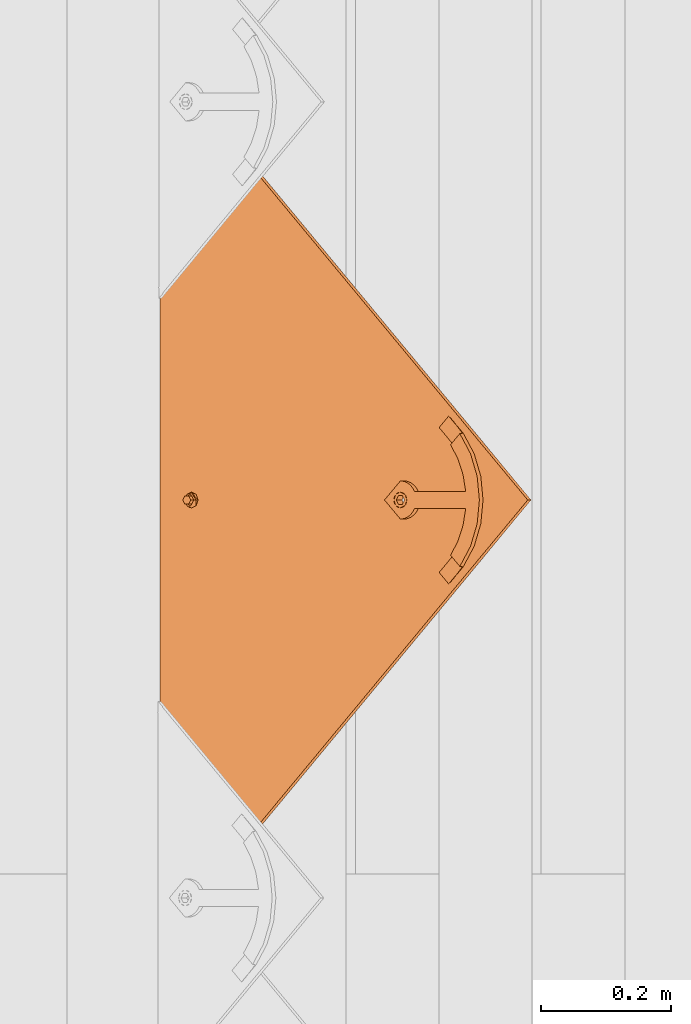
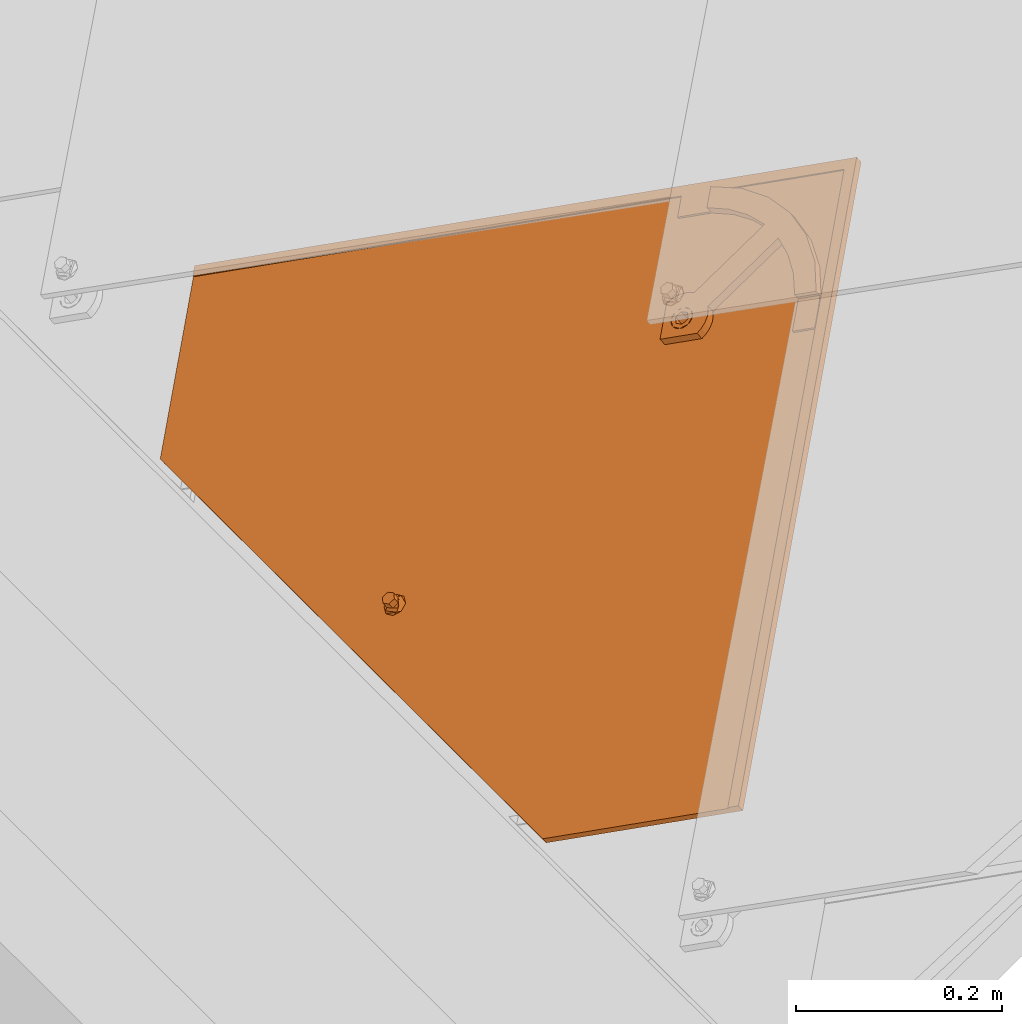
# One storey, part 54 of 151: 1 proxy.
"""IFC2X3 building model written with IfcOpenShell, lengths in millimetres."""

from ifc_helpers import new_model, entity, si_unit, converted_unit, derived_unit, direction, frame, origin, place, context, subcontext, project, spatial, faceted_brep, source, transform, mapped, material, material_list, type_object, type_shapes, element, save


model = new_model("IFC2X3")

# Units and contexts
model_context = context("Model", 3, precision=0.01, world=origin(), true_north=direction((6.12303176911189e-17, 1.0)))
body_context = subcontext(model_context, "Body", "Model", "MODEL_VIEW")
ifc_project = project(units=[si_unit("LENGTHUNIT", "METRE", prefix="MILLI"), si_unit("AREAUNIT", "SQUARE_METRE"), si_unit("VOLUMEUNIT", "CUBIC_METRE"), converted_unit("PLANEANGLEUNIT", "DEGREE", entity("IfcRatioMeasure", 0.0174532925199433), si_unit("PLANEANGLEUNIT", "RADIAN"), dimensions=[0, 0, 0, 0, 0, 0, 0]), si_unit("MASSUNIT", "GRAM", prefix="KILO"), derived_unit("MASSDENSITYUNIT", [(si_unit("MASSUNIT", "GRAM", prefix="KILO"), 1), (si_unit("LENGTHUNIT", "METRE"), -3)]), si_unit("TIMEUNIT", "SECOND"), si_unit("FREQUENCYUNIT", "HERTZ"), si_unit("THERMODYNAMICTEMPERATUREUNIT", "DEGREE_CELSIUS"), derived_unit("THERMALTRANSMITTANCEUNIT", [(si_unit("MASSUNIT", "GRAM", prefix="KILO"), 1), (si_unit("THERMODYNAMICTEMPERATUREUNIT", "KELVIN"), -1), (si_unit("TIMEUNIT", "SECOND"), -3)]), derived_unit("VOLUMETRICFLOWRATEUNIT", [(si_unit("LENGTHUNIT", "METRE"), 3), (si_unit("TIMEUNIT", "SECOND"), -1)]), si_unit("ELECTRICCURRENTUNIT", "AMPERE"), si_unit("ELECTRICVOLTAGEUNIT", "VOLT"), si_unit("POWERUNIT", "WATT"), si_unit("FORCEUNIT", "NEWTON", prefix="KILO"), si_unit("ILLUMINANCEUNIT", "LUX"), si_unit("LUMINOUSFLUXUNIT", "LUMEN"), si_unit("LUMINOUSINTENSITYUNIT", "CANDELA"), derived_unit("USERDEFINED", [(si_unit("MASSUNIT", "GRAM", prefix="KILO"), -1), (si_unit("LENGTHUNIT", "METRE"), -2), (si_unit("TIMEUNIT", "SECOND"), 3), (si_unit("LUMINOUSFLUXUNIT", "LUMEN"), 1)]), derived_unit("LINEARVELOCITYUNIT", [(si_unit("LENGTHUNIT", "METRE"), 1), (si_unit("TIMEUNIT", "SECOND"), -1)]), si_unit("PRESSUREUNIT", "PASCAL"), derived_unit("USERDEFINED", [(si_unit("LENGTHUNIT", "METRE"), -2), (si_unit("MASSUNIT", "GRAM", prefix="KILO"), 1), (si_unit("TIMEUNIT", "SECOND"), -2)])], contexts=[model_context])

# Site, building, storey
site_placement = place(None, origin())
site = spatial("IfcSite", under=ifc_project, at=site_placement, Name="Default", CompositionType="ELEMENT")
building_placement = place(site_placement, origin())
building = spatial("IfcBuilding", under=site, at=building_placement, CompositionType="ELEMENT")
storey_placement = place(building_placement, origin())
storey = spatial("IfcBuildingStorey", under=building, at=storey_placement, Name="Level 1", CompositionType="ELEMENT", Elevation=0.0)

# Proxy
ifc_material_1 = material(Name="Rubber - Sunstyle - Black")
ifc_material_2 = material(Name="Glass - Sunstyle - Tainted Black")
ifc_material_list_1 = material_list([ifc_material_1, ifc_material_2])
ifc_material_list_2 = material_list([ifc_material_1, ifc_material_2])
building_element_proxy_type = type_object("IfcBuildingElementProxyType", Name="Shingle Bottom - Black", PredefinedType="NOTDEFINED", material=ifc_material_list_2)
shared_shape = source(origin(), body_context, "Body", "Brep", [
    faceted_brep([(0.0, -1.79273515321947, -4.01619789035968), (-5.7742028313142, -5.12600528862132, -3.96037390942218), (-5.77420283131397, -4.75769619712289, 18.0314954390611), (0.0, -1.42442606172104, 17.9756714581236), (-5.77420283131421, -11.792545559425, -3.84872594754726), (-5.77420283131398, -11.4242364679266, 18.143143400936), (0.0, -15.1258156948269, -3.79290196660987), (0.0, -14.7575066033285, 18.1989673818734), (5.77420283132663, -11.7925455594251, -3.84872594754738), (5.77420283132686, -11.4242364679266, 18.1431434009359), (5.77420283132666, -5.12600528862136, -3.96037390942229), (5.77420283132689, -4.75769619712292, 18.031495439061), (-8.60370416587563, -16.6934641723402, 18.2313898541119), (0.0, -20.2567354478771, 18.2910657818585), (-12.1674751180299, -8.09096633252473, 18.0873194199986), (-8.60370416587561, 0.511531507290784, 17.9432489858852), (0.0, 4.07480278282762, 17.8835730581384), (8.60370416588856, 0.511531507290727, 17.9432489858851), (12.1674751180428, -8.09096633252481, 18.0873194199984), (8.60370416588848, -16.6934641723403, 18.2313898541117), (-11.4302228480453, -6.71737066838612, 20.4858706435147), (-9.77051349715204, -8.02009729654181, 22.3189355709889), (0.0, -0.706876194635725, 22.9603444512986), (0.0, 0.533621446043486, 22.3799978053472), (0.0, 2.69117229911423, 21.3706227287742), (-6.32324569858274, -4.35709193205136, 23.021476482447), (-6.32324569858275, -11.6575234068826, 23.1437405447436), (0.0, -18.7571148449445, 21.7298281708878), (0.0, -15.3077391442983, 23.2048725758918), (10.9851748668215, -11.808022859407, 20.3827540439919), (10.123850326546, -8.02413622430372, 22.0777687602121), (6.32324569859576, -4.3570919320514, 23.0214764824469), (6.32324569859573, -11.6575234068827, 23.1437405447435), (-6.32324569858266, -11.5234949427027, 31.146628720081), (0.0, -15.1737106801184, 31.2077607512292), (0.0, -7.8732792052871, 31.0854966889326), (-6.32324569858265, -4.22306346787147, 31.0243646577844), (6.32324569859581, -11.5234949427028, 31.1466287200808), (6.32324569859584, -4.22306346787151, 31.0243646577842), (0.0, -0.57284773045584, 30.963232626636), (0.0, -8.45927542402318, -3.90454992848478)], [[[0, 1, 2, 3]], [[1, 4, 5, 2]], [[4, 6, 7, 5]], [[6, 8, 9, 7]], [[8, 10, 11, 9]], [[10, 0, 3, 11]], [[12, 7, 13]], [[7, 12, 5]], [[14, 5, 12]], [[5, 14, 2]], [[15, 2, 14]], [[3, 2, 15]], [[15, 16, 3]], [[16, 17, 3]], [[11, 3, 17]], [[11, 17, 18]], [[9, 11, 18]], [[18, 19, 9]], [[7, 9, 19]], [[19, 13, 7]], [[15, 20, 16]], [[21, 22, 23, 24]], [[22, 21, 25]], [[20, 14, 12]], [[15, 14, 20]], [[25, 21, 26]], [[20, 24, 16]], [[12, 13, 27]], [[12, 27, 20]], [[21, 28, 26]], [[21, 27, 28]], [[20, 21, 24]], [[20, 27, 21]], [[19, 29, 13]], [[30, 23, 31]], [[30, 28, 27]], [[24, 23, 30]], [[29, 27, 13]], [[19, 18, 29]], [[29, 30, 27]], [[29, 17, 24]], [[24, 17, 16]], [[31, 32, 30]], [[23, 22, 31]], [[28, 30, 32]], [[29, 24, 30]], [[29, 18, 17]], [[33, 34, 35]], [[35, 36, 33]], [[34, 37, 35]], [[38, 35, 37]], [[35, 38, 39]], [[35, 39, 36]], [[40, 6, 4]], [[4, 1, 40]], [[1, 0, 40]], [[40, 8, 6]], [[0, 10, 40]], [[8, 40, 10]], [[22, 25, 36, 39]], [[25, 26, 33, 36]], [[26, 28, 34, 33]], [[28, 32, 37, 34]], [[32, 31, 38, 37]], [[31, 22, 39, 38]]]),
    faceted_brep([(0.0, 372.824876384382, 20.3195200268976), (0.0, 377.324245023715, 20.2441667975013), (-8.60370416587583, 376.388147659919, 20.2598440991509), (8.60370416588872, 376.388147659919, 20.2598440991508), (6.64022859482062, 381.157445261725, 20.1799702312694), (12.1674751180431, 384.990645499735, 20.1157736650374), (6.64022859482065, 388.823845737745, 20.0515770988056), (8.6037041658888, 393.59314333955, 19.9717032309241), (0.0, 392.657045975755, 19.9873805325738), (0.0, 397.156414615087, 19.9120273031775), (-8.60370416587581, 393.59314333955, 19.9717032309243), (-6.64022859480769, 388.823845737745, 20.0515770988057), (-12.1674751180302, 384.990645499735, 20.1157736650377), (-6.6402285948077, 381.157445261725, 20.1799702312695), (-6.6402282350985, 388.555922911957, 4.05382046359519), (0.0, 392.389122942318, 3.98962390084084), (-6.64022823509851, 380.889522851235, 4.18221358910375), (0.0, 377.056322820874, 4.24641015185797), (6.64022823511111, 380.889522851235, 4.18221358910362), (6.64022823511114, 388.555922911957, 4.05382046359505), (-8.603704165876, 376.12022504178, 4.26208746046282), (0.0, 372.556953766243, 4.32176338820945), (-12.1674751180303, 384.722722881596, 4.11801702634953), (-8.60370416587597, 393.325220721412, 3.97394659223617), (0.0, 396.888491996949, 3.91427066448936), (8.60370416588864, 393.325220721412, 3.97394659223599), (12.1674751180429, 384.722722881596, 4.11801702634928), (8.60370416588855, 376.12022504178, 4.26208746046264)], [[[0, 1, 2]], [[1, 0, 3]], [[3, 4, 1]], [[4, 3, 5]], [[6, 4, 5]], [[5, 7, 6]], [[7, 8, 6]], [[8, 7, 9]], [[8, 9, 10]], [[10, 11, 8]], [[12, 11, 10]], [[2, 13, 12]], [[12, 13, 11]], [[13, 2, 1]], [[8, 11, 14, 15]], [[11, 13, 16, 14]], [[13, 1, 17, 16]], [[1, 4, 18, 17]], [[4, 6, 19, 18]], [[6, 8, 15, 19]], [[20, 17, 21]], [[17, 20, 16]], [[22, 16, 20]], [[14, 16, 22]], [[23, 14, 22]], [[15, 14, 23]], [[23, 24, 15]], [[24, 25, 15]], [[19, 15, 25]], [[19, 25, 26]], [[26, 18, 19]], [[26, 27, 18]], [[17, 18, 27]], [[27, 21, 17]], [[24, 23, 10, 9]], [[10, 23, 22, 12]], [[20, 21, 0, 2]], [[20, 2, 12, 22]], [[21, 27, 3, 0]], [[3, 27, 26, 5]], [[25, 24, 9, 7]], [[25, 7, 5, 26]]]),
    faceted_brep([(518.247351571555, 79.9143812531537, 14.965257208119), (526.732038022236, 88.3990677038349, 14.8231598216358), (526.732038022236, 88.4241854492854, 16.3229495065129), (518.247351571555, 79.9394989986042, 16.4650468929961), (0.000322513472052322, 598.016093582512, 6.28834266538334), (-518.246706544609, 79.9143812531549, 14.9652572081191), (-526.73139299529, 88.3990677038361, 14.8231598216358), (0.000322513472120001, 614.983087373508, 6.00418773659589), (0.000322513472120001, 615.008205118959, 7.50397742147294), (-526.731392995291, 88.4241854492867, 16.3229495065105), (-518.246706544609, 79.9394989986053, 16.465046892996), (0.000322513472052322, 598.041211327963, 7.78813235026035)], [[[0, 1, 2, 3]], [[1, 0, 4, 5, 6, 7]], [[2, 1, 7, 8]], [[3, 2, 8, 9, 10, 11]], [[0, 3, 11, 4]], [[5, 10, 9, 6]], [[8, 7, 6, 9]], [[4, 11, 10, 5]]]),
    faceted_brep([(0.00032251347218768, 614.983087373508, 6.00418773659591), (-2.87802047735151, 396.187349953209, 9.66847193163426), (0.227808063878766, 396.596182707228, 9.6616250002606), (-5.77219193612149, 394.988712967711, 9.68854611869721), (3.3336366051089, 396.187349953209, 9.66847193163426), (6.22780806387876, 394.988712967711, 9.6885461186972), (8.71308943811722, 393.081956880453, 9.72047953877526), (10.620112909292, 390.59702396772, 9.76209598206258), (-8.25747331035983, 393.081956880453, 9.72047953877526), (-10.1644967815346, 390.59702396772, 9.76209598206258), (-11.3633018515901, 387.703258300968, 9.81055935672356), (-526.731392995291, 88.3990677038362, 14.8231598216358), (11.8189179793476, 387.703258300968, 9.81055935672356), (526.732038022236, 88.3990677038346, 14.8231598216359), (-11.7721919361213, 384.597865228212, 9.86256696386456), (-11.3633018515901, 381.492472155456, 9.91457457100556), (-10.1644967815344, 378.598706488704, 9.96303794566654), (-370.355016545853, -67.9334607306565, 17.4413406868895), (-8.25747331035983, 376.113773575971, 10.0046543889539), (-5.65685424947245, -2.29422365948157, 16.3420467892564), (-6.92820323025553, -3.95084560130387, 16.3697910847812), (-7.72740661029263, -5.88002271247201, 16.4021000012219), (-8.0, -7.95028476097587, 16.4367717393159), (-7.72740661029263, -10.0205468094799, 16.4714434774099), (-6.9282032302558, -11.9497239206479, 16.5037523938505), (-5.65685424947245, -13.6063458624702, 16.5314966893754), (-4.0, -14.8775165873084, 16.5527856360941), (-2.07055236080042, -15.676607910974, 16.5661684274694), (0.0, -15.9491630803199, 16.5707330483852), (370.355661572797, -67.9334607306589, 17.4413406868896), (10.620112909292, 378.598706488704, 9.96303794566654), (8.71308943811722, 376.11377357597, 10.0046543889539), (5.65685424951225, -2.29422365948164, 16.3420467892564), (6.92820323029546, -3.9508456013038, 16.3697910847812), (7.72740661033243, -5.88002271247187, 16.4021000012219), (8.0, -7.9502847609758, 16.4367717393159), (7.72740661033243, -10.0205468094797, 16.4714434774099), (6.92820323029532, -11.9497239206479, 16.5037523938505), (5.65685424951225, -13.6063458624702, 16.5314966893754), (4.0, -14.8775165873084, 16.5527856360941), (2.07055236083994, -15.676607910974, 16.5661684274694), (-5.77219193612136, 374.207017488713, 10.0365878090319), (-4.0, -1.02305293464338, 16.3207578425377), (-2.87802047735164, 373.008380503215, 10.0566619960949), (-2.07055236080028, -0.223961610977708, 16.3073750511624), (0.227808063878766, 372.599547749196, 10.0635089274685), (0.0, 0.0485935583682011, 16.3028104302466), (2.07055236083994, -0.223961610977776, 16.3073750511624), (3.3336366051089, 373.008380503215, 10.0566619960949), (4.0, -1.02305293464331, 16.3207578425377), (6.22780806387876, 374.207017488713, 10.0365878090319), (12.2278080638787, 384.597865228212, 9.86256696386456), (11.8189179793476, 381.492472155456, 9.91457457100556), (-370.355016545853, -68.059049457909, 9.94239226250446), (-6.92820323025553, -4.07643432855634, 8.87084266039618), (-7.72740661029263, -6.00561143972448, 8.90315157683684), (-8.0, -8.07587348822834, 8.93782331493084), (-7.72740661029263, -10.1461355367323, 8.97249505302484), (-6.9282032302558, -12.0753126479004, 9.00480396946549), (-5.65685424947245, -13.7319345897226, 9.03254826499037), (-5.65685424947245, -2.41981238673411, 8.8430983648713), (-8.25747331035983, 375.988184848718, 2.50570596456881), (-4.0, -15.0031053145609, 9.05383721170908), (-2.07055236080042, -15.8021966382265, 9.06722000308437), (0.0, -16.0747518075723, 9.07178462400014), (370.355661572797, -68.0590494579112, 9.9423922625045), (-10.1644967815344, 378.473117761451, 2.46408952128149), (-526.731392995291, 88.2734789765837, 7.32421139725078), (-11.3633018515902, 381.366883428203, 2.41562614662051), (-11.7721919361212, 384.472276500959, 2.36361853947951), (-11.3633018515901, 387.577669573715, 2.3116109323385), (0.00032251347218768, 614.857498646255, -1.49476068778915), (-10.1644967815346, 390.471435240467, 2.26314755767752), (-8.25747331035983, 392.956368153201, 2.22153111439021), (-5.77219193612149, 394.863124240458, 2.18959769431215), (-2.87802047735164, 396.061761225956, 2.16952350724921), (0.227808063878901, 396.470593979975, 2.16267657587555), (3.3336366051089, 396.061761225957, 2.1695235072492), (6.22780806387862, 394.863124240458, 2.18959769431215), (8.71308943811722, 392.956368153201, 2.2215311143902), (10.620112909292, 390.471435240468, 2.26314755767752), (11.8189179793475, 387.577669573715, 2.31161093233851), (526.732038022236, 88.2734789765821, 7.32421139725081), (12.2278080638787, 384.472276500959, 2.3636185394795), (10.620112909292, 378.473117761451, 2.46408952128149), (11.8189179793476, 381.366883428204, 2.41562614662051), (-5.77219193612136, 374.08142876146, 2.53763938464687), (-4.0, -1.14864166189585, 8.8218094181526), (-2.87802047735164, 372.882791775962, 2.55771357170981), (-2.07055236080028, -0.349550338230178, 8.8084266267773), (0.227808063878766, 372.473959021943, 2.56456050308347), (0.0, -0.0769951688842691, 8.80386200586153), (2.07055236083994, -0.349550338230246, 8.8084266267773), (3.3336366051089, 372.882791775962, 2.55771357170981), (4.0, -1.14864166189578, 8.8218094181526), (6.22780806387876, 374.081428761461, 2.53763938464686), (5.65685424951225, -2.41981238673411, 8.8430983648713), (8.71308943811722, 375.988184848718, 2.50570596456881), (6.92820323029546, -4.07643432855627, 8.87084266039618), (7.72740661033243, -6.00561143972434, 8.90315157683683), (8.0, -8.07587348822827, 8.93782331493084), (7.72740661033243, -10.1461355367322, 8.97249505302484), (6.92820323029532, -12.0753126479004, 9.00480396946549), (5.65685424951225, -13.7319345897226, 9.03254826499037), (4.0, -15.0031053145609, 9.05383721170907), (2.07055236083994, -15.8021966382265, 9.06722000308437)], [[[0, 1, 2]], [[1, 0, 3]], [[0, 2, 4]], [[4, 5, 0]], [[5, 6, 0]], [[0, 6, 7]], [[8, 3, 0]], [[9, 8, 0]], [[9, 0, 10]], [[10, 0, 11]], [[12, 0, 7]], [[12, 13, 0]], [[11, 14, 10]], [[14, 11, 15]], [[16, 15, 11]], [[11, 17, 16]], [[16, 17, 18]], [[19, 18, 17]], [[19, 17, 20]], [[20, 17, 21]], [[22, 21, 17]], [[22, 17, 23]], [[24, 23, 17]], [[17, 25, 24]], [[26, 25, 17]], [[27, 26, 17]], [[17, 28, 27]], [[28, 17, 29]], [[29, 13, 30]], [[29, 30, 31]], [[29, 31, 32]], [[32, 33, 29]], [[33, 34, 29]], [[35, 29, 34]], [[29, 35, 36]], [[36, 37, 29]], [[29, 37, 38]], [[38, 39, 29]], [[40, 28, 29]], [[39, 40, 29]], [[41, 18, 19]], [[42, 41, 19]], [[42, 43, 41]], [[44, 43, 42]], [[44, 45, 43]], [[46, 45, 44]], [[47, 45, 46]], [[48, 45, 47]], [[49, 48, 47]], [[49, 50, 48]], [[32, 50, 49]], [[32, 31, 50]], [[12, 51, 13]], [[52, 13, 51]], [[13, 52, 30]], [[53, 54, 55]], [[53, 55, 56]], [[56, 57, 53]], [[57, 58, 53]], [[53, 58, 59]], [[60, 54, 53]], [[61, 60, 53]], [[59, 62, 53]], [[62, 63, 53]], [[63, 64, 53]], [[53, 64, 65]], [[66, 61, 53]], [[66, 53, 67]], [[68, 66, 67]], [[69, 68, 67]], [[69, 67, 70]], [[67, 71, 70]], [[72, 70, 71]], [[73, 72, 71]], [[71, 74, 73]], [[74, 71, 75]], [[75, 71, 76]], [[77, 76, 71]], [[77, 71, 78]], [[79, 78, 71]], [[71, 80, 79]], [[80, 71, 81]], [[71, 82, 81]], [[83, 81, 82]], [[84, 82, 65]], [[85, 82, 84]], [[82, 85, 83]], [[86, 60, 61]], [[86, 87, 60]], [[88, 87, 86]], [[89, 87, 88]], [[90, 89, 88]], [[90, 91, 89]], [[92, 91, 90]], [[92, 90, 93]], [[94, 92, 93]], [[93, 95, 94]], [[94, 95, 96]], [[97, 96, 95]], [[96, 97, 65]], [[84, 65, 97]], [[98, 96, 65]], [[99, 98, 65]], [[99, 65, 100]], [[101, 100, 65]], [[102, 101, 65]], [[103, 102, 65]], [[104, 103, 65]], [[105, 104, 65]], [[65, 64, 105]], [[11, 0, 71, 67]], [[17, 11, 67, 53]], [[13, 29, 65, 82]], [[0, 13, 82, 71]], [[22, 56, 55, 21]], [[21, 55, 54, 20]], [[42, 19, 60, 87]], [[60, 19, 20, 54]], [[44, 42, 87, 89]], [[44, 89, 91, 46]], [[46, 91, 92, 47]], [[47, 92, 94, 49]], [[33, 32, 96, 98]], [[96, 32, 49, 94]], [[34, 33, 98, 99]], [[34, 99, 100, 35]], [[35, 100, 101, 36]], [[36, 101, 102, 37]], [[39, 38, 103, 104]], [[103, 38, 37, 102]], [[40, 39, 104, 105]], [[40, 105, 64, 28]], [[28, 64, 63, 27]], [[27, 63, 62, 26]], [[24, 25, 59, 58]], [[59, 25, 26, 62]], [[23, 24, 58, 57]], [[23, 57, 56, 22]], [[14, 69, 70, 10]], [[10, 70, 72, 9]], [[3, 8, 73, 74]], [[73, 8, 9, 72]], [[1, 3, 74, 75]], [[1, 75, 76, 2]], [[2, 76, 77, 4]], [[4, 77, 78, 5]], [[7, 6, 79, 80]], [[79, 6, 5, 78]], [[12, 7, 80, 81]], [[12, 81, 83, 51]], [[51, 83, 85, 52]], [[52, 85, 84, 30]], [[50, 31, 97, 95]], [[97, 31, 30, 84]], [[48, 50, 95, 93]], [[48, 93, 90, 45]], [[45, 90, 88, 43]], [[43, 88, 86, 41]], [[16, 18, 61, 66]], [[41, 86, 61, 18]], [[68, 15, 16, 66]], [[15, 68, 69, 14]], [[29, 17, 53, 65]]]),
    faceted_brep([(-111.269043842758, 451.472531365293, 11.2429332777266), (-84.9443960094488, 477.793488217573, 10.8021227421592), (-102.027571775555, 494.874268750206, 10.5160621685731), (-108.279973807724, 489.512620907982, 10.6058564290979), (-114.2509690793, 483.839345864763, 10.7008696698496), (-128.946713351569, 469.147722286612, 10.9469178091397), (128.946713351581, 469.147722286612, 10.9469178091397), (114.250969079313, 483.839345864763, 10.7008696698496), (108.279973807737, 489.512620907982, 10.6058564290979), (102.027571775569, 494.874268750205, 10.5160621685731), (84.9431983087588, 477.794685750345, 10.802102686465), (111.269043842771, 451.472531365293, 11.2429332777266), (-8.48528137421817, 393.302959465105, 19.7181805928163), (-18.7041061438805, 407.484939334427, 19.4806677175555), (-23.2046504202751, 402.851933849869, 19.5582590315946), (-10.3923048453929, 390.818026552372, 19.7597970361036), (-6.0, 395.209715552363, 19.6862471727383), (-13.2999999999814, 411.02298750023, 19.4214142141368), (-3.10582854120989, 396.408352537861, 19.6661729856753), (0.0, 396.81718529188, 19.6593260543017), (13.3000000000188, 411.022987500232, 19.4214142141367), (3.10582854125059, 396.408352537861, 19.6661729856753), (6.0, 395.209715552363, 19.6862471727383), (18.7041061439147, 407.484939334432, 19.4806677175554), (8.48528137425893, 393.302959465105, 19.7181805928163), (23.2046504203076, 402.85193384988, 19.5582590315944), (10.3923048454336, 390.818026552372, 19.7597970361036), (26.5842195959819, 397.347783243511, 19.6504398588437), (11.5911099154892, 387.92426088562, 19.8082604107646), (28.6795527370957, 391.238383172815, 19.752757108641), (12.0, 384.818867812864, 19.8602680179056), (29.3894280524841, 384.818867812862, 19.8602680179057), (11.5911099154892, 381.713474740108, 19.9122756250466), (10.3923048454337, 378.819709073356, 19.9607389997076), (8.48528137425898, 376.334776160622, 20.0023554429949), (0.0, 355.433560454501, 20.3523987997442), (6.0, 374.428020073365, 20.034288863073), (3.10582854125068, 373.229383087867, 20.0543630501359), (0.0, 372.820550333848, 20.0612099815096), (-3.10582854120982, 373.229383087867, 20.0543630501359), (-6.0, 374.428020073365, 20.034288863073), (-8.48528137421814, 376.334776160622, 20.0023554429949), (-29.3894280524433, 384.818867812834, 19.8602680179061), (-10.3923048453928, 378.819709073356, 19.9607389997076), (-11.5911099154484, 381.713474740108, 19.9122756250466), (-12.0, 384.818867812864, 19.8602680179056), (-28.67955273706, 391.238383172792, 19.7527571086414), (-11.5911099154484, 387.92426088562, 19.8082604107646), (-26.5842195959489, 397.347783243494, 19.650439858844), (-13.2999999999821, 505.810987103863, 17.833951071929), (13.3000000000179, 505.810987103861, 17.833951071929), (0.0, 531.282600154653, 17.4073649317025), (36.4908407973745, 527.108634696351, 17.4772684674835), (38.7697427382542, 500.996106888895, 17.9145883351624), (71.096085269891, 514.802420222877, 17.6833669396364), (62.9243331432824, 491.592473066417, 18.0720758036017), (102.027571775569, 494.999857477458, 18.0150105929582), (84.9443960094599, 477.919076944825, 18.3010711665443), (-36.4908407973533, 527.108634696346, 17.4772684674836), (-38.7697427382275, 500.996106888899, 17.9145883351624), (-71.0960852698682, 514.802420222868, 17.6833669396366), (-62.9243331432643, 491.592473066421, 18.0720758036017), (-102.027571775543, 494.999857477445, 18.0150105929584), (-84.9443960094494, 477.919076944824, 18.3010711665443), (0.0, 355.266108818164, 10.3538009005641), (0.0, 372.653098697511, 10.0626120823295), (3.10582854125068, 373.06193145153, 10.0557651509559), (-3.10582854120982, 373.06193145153, 10.0557651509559), (6.0, 374.260568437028, 10.0356909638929), (8.48528137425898, 376.167324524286, 10.0037575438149), (29.3894280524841, 384.651416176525, 9.86167011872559), (-6.0, 374.260568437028, 10.0356909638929), (-8.48528137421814, 376.167324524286, 10.0037575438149), (-29.3894280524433, 384.651416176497, 9.86167011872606), (-10.3923048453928, 378.652257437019, 9.96214110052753), (-11.5911099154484, 381.546023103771, 9.91367772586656), (-12.0, 384.651416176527, 9.86167011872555), (-28.67955273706, 391.070931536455, 9.75415920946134), (-11.5911099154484, 387.756809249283, 9.80966251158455), (-26.5842195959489, 397.180331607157, 9.65184195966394), (-10.3923048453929, 390.650574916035, 9.76119913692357), (-23.2046504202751, 402.684482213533, 9.5596611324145), (-8.48528137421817, 393.135507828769, 9.71958269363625), (-18.7041061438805, 407.31748769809, 9.48206981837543), (-6.0, 395.042263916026, 9.6876492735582), (-13.2999999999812, 410.855535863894, 9.4228163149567), (-3.10582854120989, 396.240900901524, 9.66757508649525), (0.0, 396.649733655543, 9.66072815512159), (13.3000000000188, 410.855535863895, 9.42281631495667), (-13.2999999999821, 505.643535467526, 7.83535317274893), (13.3000000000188, 505.643535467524, 7.83535317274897), (0.0, 531.115148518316, 7.4087670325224), (-36.4908407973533, 526.94118306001, 7.47867056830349), (-38.7697427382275, 500.828655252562, 7.91599043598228), (-71.0960852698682, 514.634968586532, 7.68476904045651), (-62.9243331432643, 491.425021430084, 8.07347790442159), (-102.027571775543, 494.832405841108, 8.01641269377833), (-84.9431983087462, 477.752822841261, 8.30245321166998), (-108.279973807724, 489.470757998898, 8.10620695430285), (-114.2509690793, 483.79748295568, 8.2012201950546), (-111.269043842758, 451.430668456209, 8.74328380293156), (-128.946713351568, 469.105859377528, 8.44726833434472), (36.4908407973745, 526.941183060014, 7.47867056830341), (38.7697427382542, 500.828655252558, 7.91599043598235), (71.096085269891, 514.634968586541, 7.68476904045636), (62.9243331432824, 491.425021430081, 8.07347790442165), (102.027571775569, 494.832405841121, 8.01641269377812), (84.9443960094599, 477.751625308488, 8.30247326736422), (108.279973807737, 489.470757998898, 8.10620695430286), (114.250969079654, 483.797482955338, 8.20122019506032), (111.269043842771, 451.430668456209, 8.74328380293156), (128.946713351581, 469.105859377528, 8.44726833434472), (3.10582854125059, 396.240900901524, 9.66757508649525), (6.0, 395.042263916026, 9.6876492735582), (18.7041061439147, 407.317487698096, 9.48206981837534), (8.48528137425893, 393.135507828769, 9.71958269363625), (23.2046504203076, 402.684482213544, 9.55966113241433), (10.3923048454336, 390.650574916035, 9.76119913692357), (26.5842195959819, 397.180331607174, 9.65184195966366), (11.5911099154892, 387.756809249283, 9.80966251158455), (28.6795527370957, 391.070931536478, 9.75415920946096), (12.0, 384.651416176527, 9.86167011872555), (11.5911099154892, 381.546023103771, 9.91367772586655), (10.3923048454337, 378.652257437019, 9.96214110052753)], [[[0, 1, 2, 3, 4, 5]], [[6, 7, 8, 9, 10, 11]], [[12, 13, 14]], [[15, 12, 14]], [[16, 13, 12]], [[13, 16, 17]], [[17, 16, 18]], [[18, 19, 17]], [[20, 17, 19]], [[19, 21, 20]], [[22, 20, 21]], [[22, 23, 20]], [[22, 24, 23]], [[25, 23, 24]], [[26, 25, 24]], [[25, 26, 27]], [[26, 28, 27]], [[29, 27, 28]], [[28, 30, 29]], [[31, 29, 30]], [[30, 32, 31]], [[32, 33, 31]], [[31, 33, 34]], [[34, 35, 31]], [[34, 36, 35]], [[37, 35, 36]], [[38, 35, 37]], [[35, 38, 39]], [[40, 35, 39]], [[40, 41, 35]], [[42, 35, 41]], [[43, 42, 41]], [[43, 44, 42]], [[44, 45, 42]], [[45, 46, 42]], [[46, 45, 47]], [[48, 46, 47]], [[47, 15, 48]], [[48, 15, 14]], [[20, 49, 17]], [[49, 20, 50]], [[51, 49, 50]], [[50, 52, 51]], [[53, 52, 50]], [[52, 53, 54]], [[55, 54, 53]], [[54, 55, 56]], [[55, 57, 56]], [[58, 49, 51]], [[49, 58, 59]], [[60, 59, 58]], [[60, 61, 59]], [[61, 60, 62]], [[61, 62, 63]], [[64, 65, 66]], [[65, 64, 67]], [[64, 66, 68]], [[68, 69, 64]], [[64, 69, 70]], [[71, 67, 64]], [[71, 64, 72]], [[72, 64, 73]], [[73, 74, 72]], [[74, 73, 75]], [[76, 75, 73]], [[77, 76, 73]], [[76, 77, 78]], [[78, 77, 79]], [[80, 78, 79]], [[81, 80, 79]], [[82, 80, 81]], [[81, 83, 82]], [[83, 84, 82]], [[84, 83, 85]], [[85, 86, 84]], [[87, 86, 85]], [[87, 85, 88]], [[88, 85, 89]], [[88, 89, 90]], [[89, 91, 90]], [[91, 89, 92]], [[93, 92, 89]], [[94, 92, 93]], [[93, 95, 94]], [[95, 96, 94]], [[97, 96, 95]], [[98, 96, 97]], [[99, 98, 97]], [[97, 100, 99]], [[101, 99, 100]], [[102, 90, 91]], [[90, 102, 103]], [[104, 103, 102]], [[103, 104, 105]], [[105, 104, 106]], [[107, 105, 106]], [[107, 106, 108]], [[109, 107, 108]], [[110, 107, 109]], [[111, 110, 109]], [[87, 88, 112]], [[113, 112, 88]], [[114, 113, 88]], [[115, 113, 114]], [[115, 114, 116]], [[116, 117, 115]], [[116, 118, 117]], [[117, 118, 119]], [[119, 118, 120]], [[121, 119, 120]], [[120, 70, 121]], [[122, 121, 70]], [[70, 69, 123]], [[123, 122, 70]], [[17, 49, 89, 85]], [[13, 17, 85, 83]], [[14, 13, 83, 81]], [[81, 79, 48, 14]], [[46, 48, 79, 77]], [[42, 46, 77, 73]], [[35, 42, 73, 64]], [[31, 35, 64, 70]], [[29, 31, 70, 120]], [[27, 29, 120, 118]], [[118, 116, 25, 27]], [[23, 25, 116, 114]], [[20, 23, 114, 88]], [[50, 20, 88, 90]], [[9, 106, 104, 54, 56]], [[52, 54, 104, 102]], [[51, 52, 102, 91]], [[58, 51, 91, 92]], [[94, 96, 2, 62, 60]], [[60, 58, 92, 94]], [[45, 76, 78, 47]], [[47, 78, 80, 15]], [[16, 12, 82, 84]], [[80, 82, 12, 15]], [[18, 16, 84, 86]], [[87, 19, 18, 86]], [[21, 112, 113, 22]], [[22, 113, 115, 24]], [[28, 26, 117, 119]], [[115, 117, 26, 24]], [[30, 28, 119, 121]], [[21, 19, 87, 112]], [[30, 121, 122, 32]], [[32, 122, 123, 33]], [[36, 34, 69, 68]], [[123, 69, 34, 33]], [[37, 36, 68, 66]], [[65, 38, 37, 66]], [[39, 67, 71, 40]], [[40, 71, 72, 41]], [[44, 43, 74, 75]], [[72, 74, 43, 41]], [[45, 44, 75, 76]], [[39, 38, 65, 67]], [[7, 6, 111, 109]], [[6, 11, 110, 111]], [[7, 109, 108, 8]], [[108, 106, 9, 8]], [[11, 10, 107, 110]], [[0, 5, 101, 100]], [[1, 0, 100, 97]], [[2, 96, 98, 3]], [[98, 99, 4, 3]], [[5, 4, 99, 101]], [[63, 62, 2, 1]], [[56, 57, 10]], [[10, 9, 56]], [[1, 95, 61, 63]], [[1, 97, 95]], [[93, 89, 49, 59]], [[95, 93, 59, 61]], [[90, 103, 53, 50]], [[103, 105, 55, 53]], [[10, 57, 55]], [[107, 10, 105]], [[55, 105, 10]]]),
])
type_shapes(building_element_proxy_type, [shared_shape])
proxy_placement = place(storey_placement, frame((-2254.95780101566, 2029.89306197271, 366.331785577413), z_axis=(-0.57357643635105, 0.0, 0.819152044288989), x_axis=(0.0, -1.0, 0.0)))
element("IfcBuildingElementProxy", 1, at=proxy_placement, inside=storey, type_object=building_element_proxy_type, material=ifc_material_list_1, Name="Roofing_Panels_SunStyle_Tile_Shingle-Bottom:Shingle Bottom - Black", ObjectType="Roofing_Panels_SunStyle_Tile_Shingle-Bottom:Shingle Bottom - Black", context=body_context, shape_type="MappedRepresentation", body=[
    mapped(shared_shape, transform((0.0, 0.0, 0.0), scale=1.0)),
])

save(model, "model.ifc")
